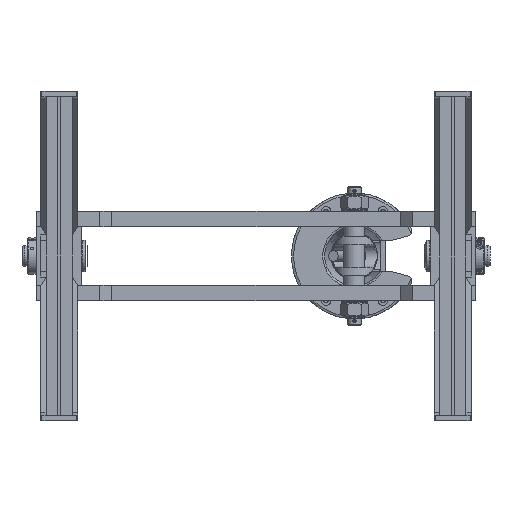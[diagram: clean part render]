
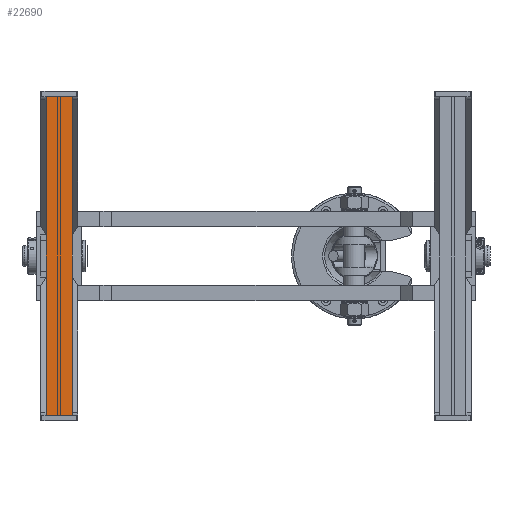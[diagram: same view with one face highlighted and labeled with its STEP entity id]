
A CAD part, front view. The second image highlights one B-rep face of the part: STEP entity #22690.
In plain terms, the highlighted planar face has unit normal (0, -1, 0).
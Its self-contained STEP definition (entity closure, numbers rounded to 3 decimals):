
#1041=PLANE('',#24376);
#1900=FACE_OUTER_BOUND('',#3216,.T.);
#3216=EDGE_LOOP('',(#15336,#15337,#15338,#15339));
#4820=LINE('',#32984,#6805);
#4823=LINE('',#32989,#6808);
#4825=LINE('',#32993,#6810);
#4826=LINE('',#32995,#6811);
#6805=VECTOR('',#26701,1000.);
#6808=VECTOR('',#26706,1000.);
#6810=VECTOR('',#26710,1000.);
#6811=VECTOR('',#26713,1000.);
#9666=VERTEX_POINT('',#32981);
#9667=VERTEX_POINT('',#32983);
#9668=VERTEX_POINT('',#32987);
#9669=VERTEX_POINT('',#32991);
#11871=EDGE_CURVE('',#9666,#9667,#4820,.T.);
#11874=EDGE_CURVE('',#9666,#9668,#4823,.T.);
#11876=EDGE_CURVE('',#9669,#9668,#4825,.T.);
#11877=EDGE_CURVE('',#9667,#9669,#4826,.T.);
#15336=ORIENTED_EDGE('',*,*,#11874,.T.);
#15337=ORIENTED_EDGE('',*,*,#11876,.F.);
#15338=ORIENTED_EDGE('',*,*,#11877,.F.);
#15339=ORIENTED_EDGE('',*,*,#11871,.F.);
#22690=ADVANCED_FACE('',(#1900),#1041,.T.);
#24376=AXIS2_PLACEMENT_3D('',#32996,#26714,#26715);
#26701=DIRECTION('',(0.,0.,1.));
#26706=DIRECTION('',(1.,0.,0.));
#26710=DIRECTION('',(0.,0.,-1.));
#26713=DIRECTION('',(1.,0.,0.));
#26714=DIRECTION('center_axis',(0.,-1.,0.));
#26715=DIRECTION('ref_axis',(0.,0.,-1.));
#32981=CARTESIAN_POINT('',(-164.832,-578.116,-303.65));
#32983=CARTESIAN_POINT('',(-164.832,-578.116,303.65));
#32984=CARTESIAN_POINT('',(-164.832,-578.116,0.));
#32987=CARTESIAN_POINT('',(-114.832,-578.116,-303.65));
#32989=CARTESIAN_POINT('',(-139.832,-578.116,-303.65));
#32991=CARTESIAN_POINT('',(-114.832,-578.116,303.65));
#32993=CARTESIAN_POINT('',(-114.832,-578.116,0.));
#32995=CARTESIAN_POINT('',(-139.832,-578.116,303.65));
#32996=CARTESIAN_POINT('Origin',(-114.832,-578.116,0.));
